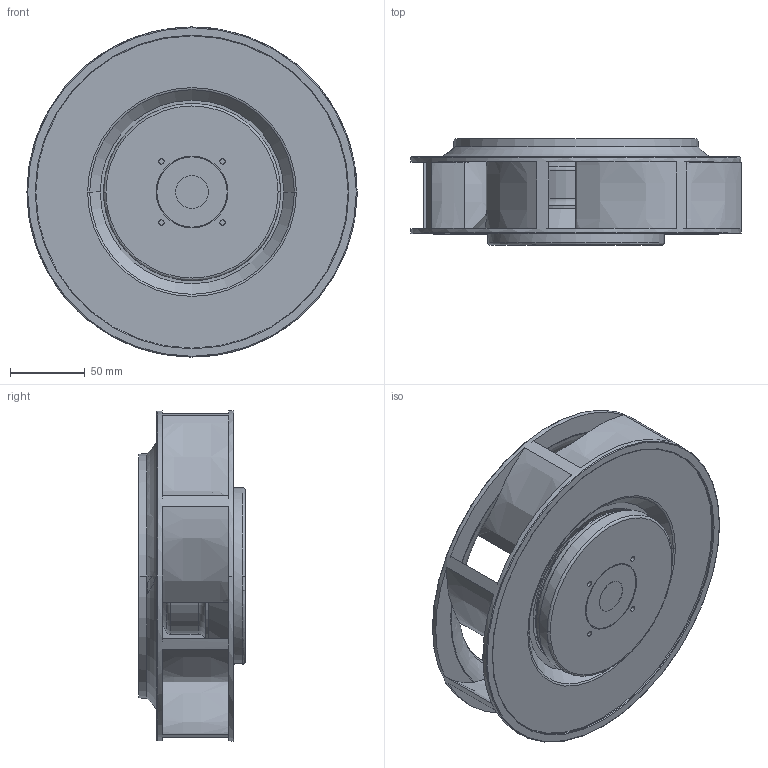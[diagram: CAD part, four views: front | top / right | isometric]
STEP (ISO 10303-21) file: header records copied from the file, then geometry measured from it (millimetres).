
FILE_DESCRIPTION((''),'2;1');
FILE_NAME('221X71_9W2TP_ASM','2017-07-19T',('Miyazawa-Masashi'),(''),'PRO/ENGINEER BY PARAMETRIC TECHNOLOGY CORPORATION, 2013320','PRO/ENGINEER BY PARAMETRIC TECHNOLOGY CORPORATION, 2013320','');
FILE_SCHEMA(('CONFIG_CONTROL_DESIGN'));
Products named in the file (1): 221X71_9W2TP_ASM
Bounding box: 221 x 71 x 221 mm (x, y, z)
Volume: 530185.9 mm3; surface area: 232322.4 mm2
Topology: 1 solids, 6 shells, 1099 faces, 2753 edges, 1657 vertices
Faces by surface type: bspline 319, cylinder 250, torus 214, plane 187, cone 95, sphere 20, extrusion 14
Entity records: 50389 total; most frequent: CARTESIAN_POINT 27373, ORIENTED_EDGE 5478, DIRECTION 3948, EDGE_CURVE 2739, AXIS2_PLACEMENT_3D 1723, VERTEX_POINT 1656, B_SPLINE_CURVE_WITH_KNOTS 1308, EDGE_LOOP 1127
